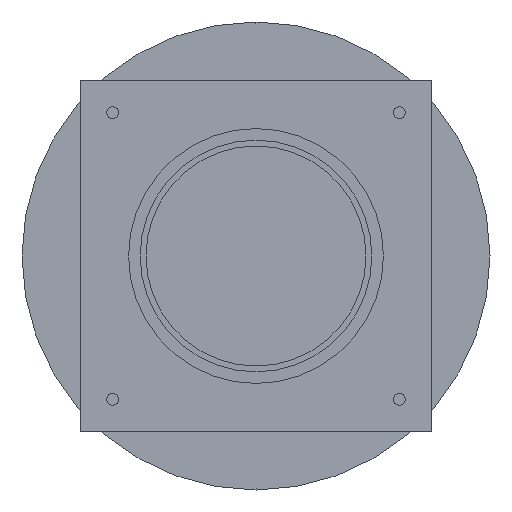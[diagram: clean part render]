
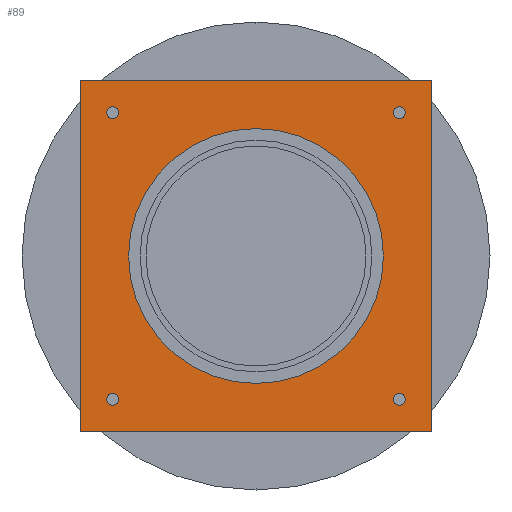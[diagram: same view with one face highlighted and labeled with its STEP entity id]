
A CAD part, front view. The second image highlights one B-rep face of the part: STEP entity #89.
In plain terms, the highlighted planar face has unit normal (0, -1, 0).
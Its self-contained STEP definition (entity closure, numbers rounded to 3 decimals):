
#89=ADVANCED_FACE('',(#187,#188,#189,#190,#191,#192),#193,.F.);
#187=FACE_OUTER_BOUND('',#298,.T.);
#188=FACE_BOUND('',#299,.T.);
#189=FACE_BOUND('',#300,.T.);
#190=FACE_BOUND('',#301,.T.);
#191=FACE_BOUND('',#302,.T.);
#192=FACE_BOUND('',#303,.T.);
#193=PLANE('',#304);
#298=EDGE_LOOP('',(#613,#614,#615,#616));
#299=EDGE_LOOP('',(#617,#618));
#300=EDGE_LOOP('',(#619,#620));
#301=EDGE_LOOP('',(#621,#622));
#302=EDGE_LOOP('',(#623,#624));
#303=EDGE_LOOP('',(#625,#626));
#304=AXIS2_PLACEMENT_3D('',#627,#628,#629);
#613=ORIENTED_EDGE('',*,*,#759,.T.);
#614=ORIENTED_EDGE('',*,*,#756,.F.);
#615=ORIENTED_EDGE('',*,*,#760,.F.);
#616=ORIENTED_EDGE('',*,*,#754,.F.);
#617=ORIENTED_EDGE('',*,*,#713,.T.);
#618=ORIENTED_EDGE('',*,*,#729,.T.);
#619=ORIENTED_EDGE('',*,*,#743,.T.);
#620=ORIENTED_EDGE('',*,*,#682,.T.);
#621=ORIENTED_EDGE('',*,*,#745,.T.);
#622=ORIENTED_EDGE('',*,*,#678,.T.);
#623=ORIENTED_EDGE('',*,*,#747,.T.);
#624=ORIENTED_EDGE('',*,*,#674,.T.);
#625=ORIENTED_EDGE('',*,*,#749,.T.);
#626=ORIENTED_EDGE('',*,*,#670,.T.);
#627=CARTESIAN_POINT('',(0.0,0.0,0.0));
#628=DIRECTION('',(0.0,1.0,0.0));
#629=DIRECTION('',(1.0,0.0,-0.0));
#670=EDGE_CURVE('',#774,#778,#780,.T.);
#674=EDGE_CURVE('',#782,#786,#788,.T.);
#678=EDGE_CURVE('',#790,#794,#796,.T.);
#682=EDGE_CURVE('',#798,#802,#804,.T.);
#713=EDGE_CURVE('',#863,#860,#864,.T.);
#729=EDGE_CURVE('',#860,#863,#889,.T.);
#743=EDGE_CURVE('',#802,#798,#903,.T.);
#745=EDGE_CURVE('',#794,#790,#905,.T.);
#747=EDGE_CURVE('',#786,#782,#907,.T.);
#749=EDGE_CURVE('',#778,#774,#909,.T.);
#754=EDGE_CURVE('',#916,#911,#918,.T.);
#756=EDGE_CURVE('',#920,#922,#923,.T.);
#759=EDGE_CURVE('',#916,#922,#927,.T.);
#760=EDGE_CURVE('',#911,#920,#928,.T.);
#774=VERTEX_POINT('',#942);
#778=VERTEX_POINT('',#947);
#780=CIRCLE('',#950,5.0);
#782=VERTEX_POINT('',#952);
#786=VERTEX_POINT('',#957);
#788=CIRCLE('',#960,5.0);
#790=VERTEX_POINT('',#962);
#794=VERTEX_POINT('',#967);
#796=CIRCLE('',#970,5.0);
#798=VERTEX_POINT('',#972);
#802=VERTEX_POINT('',#977);
#804=CIRCLE('',#980,5.0);
#860=VERTEX_POINT('',#1048);
#863=VERTEX_POINT('',#1052);
#864=CIRCLE('',#1053,108.9);
#889=CIRCLE('',#1083,108.9);
#903=CIRCLE('',#1097,5.0);
#905=CIRCLE('',#1099,5.0);
#907=CIRCLE('',#1101,5.0);
#909=CIRCLE('',#1103,5.0);
#911=VERTEX_POINT('',#1105);
#916=VERTEX_POINT('',#1112);
#918=LINE('',#1115,#1116);
#920=VERTEX_POINT('',#1118);
#922=VERTEX_POINT('',#1121);
#923=LINE('',#1122,#1123);
#927=LINE('',#1129,#1130);
#928=LINE('',#1131,#1132);
#942=CARTESIAN_POINT('',(-117.5,0.0,-122.5));
#947=CARTESIAN_POINT('',(-127.5,0.0,-122.5));
#950=AXIS2_PLACEMENT_3D('',#1160,#1161,#1162);
#952=CARTESIAN_POINT('',(127.5,0.0,-122.5));
#957=CARTESIAN_POINT('',(117.5,0.0,-122.5));
#960=AXIS2_PLACEMENT_3D('',#1168,#1169,#1170);
#962=CARTESIAN_POINT('',(-117.5,0.0,122.5));
#967=CARTESIAN_POINT('',(-127.5,0.0,122.5));
#970=AXIS2_PLACEMENT_3D('',#1176,#1177,#1178);
#972=CARTESIAN_POINT('',(127.5,0.0,122.5));
#977=CARTESIAN_POINT('',(117.5,0.0,122.5));
#980=AXIS2_PLACEMENT_3D('',#1184,#1185,#1186);
#1048=CARTESIAN_POINT('',(108.9,0.0,0.));
#1052=CARTESIAN_POINT('',(-108.9,0.0,0.));
#1053=AXIS2_PLACEMENT_3D('',#1251,#1252,#1253);
#1083=AXIS2_PLACEMENT_3D('',#1289,#1290,#1291);
#1097=AXIS2_PLACEMENT_3D('',#1331,#1332,#1333);
#1099=AXIS2_PLACEMENT_3D('',#1337,#1338,#1339);
#1101=AXIS2_PLACEMENT_3D('',#1343,#1344,#1345);
#1103=AXIS2_PLACEMENT_3D('',#1349,#1350,#1351);
#1105=CARTESIAN_POINT('',(150.0,0.0,150.0));
#1112=CARTESIAN_POINT('',(-150.0,0.0,150.0));
#1115=CARTESIAN_POINT('',(0.0,0.0,150.0));
#1116=VECTOR('',#1358,1.0);
#1118=CARTESIAN_POINT('',(150.0,0.0,-150.0));
#1121=CARTESIAN_POINT('',(-150.0,0.0,-150.0));
#1122=CARTESIAN_POINT('',(0.0,0.0,-150.0));
#1123=VECTOR('',#1360,1.0);
#1129=CARTESIAN_POINT('',(-150.0,0.0,0.0));
#1130=VECTOR('',#1363,1.0);
#1131=CARTESIAN_POINT('',(150.0,0.0,0.0));
#1132=VECTOR('',#1364,1.0);
#1160=CARTESIAN_POINT('',(-122.5,0.0,-122.5));
#1161=DIRECTION('',(-0.0,1.0,0.0));
#1162=DIRECTION('',(1.0,0.0,0.0));
#1168=CARTESIAN_POINT('',(122.5,0.0,-122.5));
#1169=DIRECTION('',(-0.0,1.0,0.0));
#1170=DIRECTION('',(1.0,0.0,0.0));
#1176=CARTESIAN_POINT('',(-122.5,0.0,122.5));
#1177=DIRECTION('',(-0.0,1.0,0.0));
#1178=DIRECTION('',(1.0,0.0,0.0));
#1184=CARTESIAN_POINT('',(122.5,0.0,122.5));
#1185=DIRECTION('',(-0.0,1.0,0.0));
#1186=DIRECTION('',(1.0,0.0,0.0));
#1251=CARTESIAN_POINT('',(0.0,0.0,0.0));
#1252=DIRECTION('',(-0.0,1.0,0.0));
#1253=DIRECTION('',(1.0,0.0,0.0));
#1289=CARTESIAN_POINT('',(0.0,0.0,0.0));
#1290=DIRECTION('',(-0.0,1.0,0.0));
#1291=DIRECTION('',(1.0,0.0,0.0));
#1331=CARTESIAN_POINT('',(122.5,0.0,122.5));
#1332=DIRECTION('',(-0.0,1.0,0.0));
#1333=DIRECTION('',(1.0,0.0,0.0));
#1337=CARTESIAN_POINT('',(-122.5,0.0,122.5));
#1338=DIRECTION('',(-0.0,1.0,0.0));
#1339=DIRECTION('',(1.0,0.0,0.0));
#1343=CARTESIAN_POINT('',(122.5,0.0,-122.5));
#1344=DIRECTION('',(-0.0,1.0,0.0));
#1345=DIRECTION('',(1.0,0.0,0.0));
#1349=CARTESIAN_POINT('',(-122.5,0.0,-122.5));
#1350=DIRECTION('',(-0.0,1.0,0.0));
#1351=DIRECTION('',(1.0,0.0,0.0));
#1358=DIRECTION('',(1.0,0.0,0.0));
#1360=DIRECTION('',(-1.0,0.0,0.0));
#1363=DIRECTION('',(0.0,0.0,-1.0));
#1364=DIRECTION('',(0.0,0.0,-1.0));
